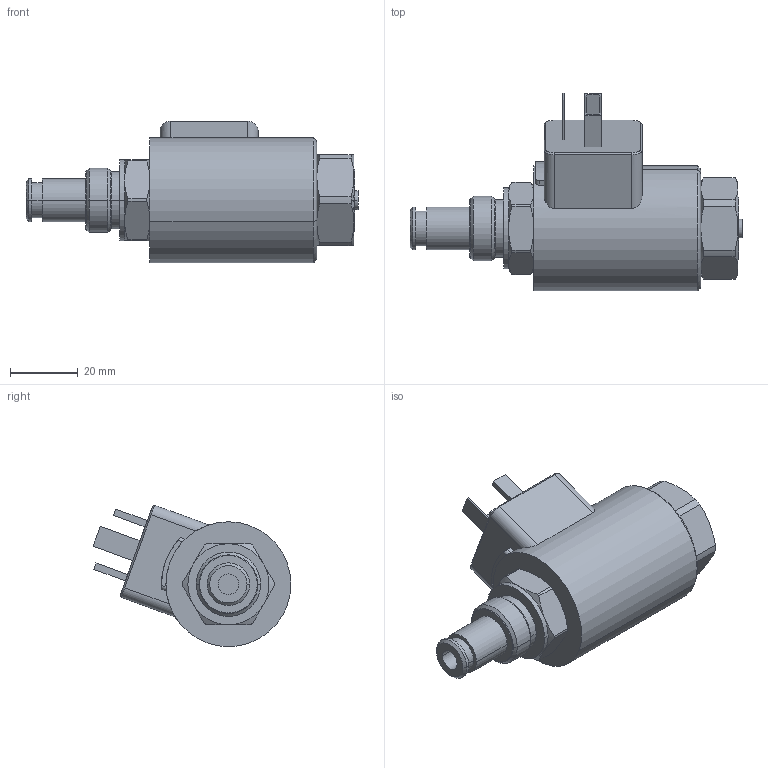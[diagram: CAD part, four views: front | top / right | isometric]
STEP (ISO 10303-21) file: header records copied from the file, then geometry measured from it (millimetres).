
FILE_DESCRIPTION((''),'2;1');
FILE_NAME('SR1P2_A2_H6_326707_ASM','2021-06-07T',('l.soukupova'),(''),'PRO/ENGINEER BY PARAMETRIC TECHNOLOGY CORPORATION, 2015440','PRO/ENGINEER BY PARAMETRIC TECHNOLOGY CORPORATION, 2015440','');
FILE_SCHEMA(('AUTOMOTIVE_DESIGN { 1 0 10303 214 1 1 1 1 }'));
Length unit declared in the file: millimetre
Products named in the file (3): SR1P2_A2_WOUTC; C19B_E1; SR1P2_A2_H6_326707_ASM
Assembly tree (2 placements, depth 2):
  SR1P2_A2_H6_326707_ASM
    SR1P2_A2_WOUTC
    C19B_E1
Bounding box: 98.3 x 58.57 x 41.87 mm (x, y, z)
Volume: 79004.4 mm3; surface area: 20695.7 mm2
Topology: 2 solids, 4 shells, 169 faces, 413 edges, 279 vertices
Faces by surface type: plane 72, cylinder 55, cone 40, torus 2
Entity records: 8516 total; most frequent: CARTESIAN_POINT 1528, DIRECTION 881, ORIENTED_EDGE 786, PRESENTATION_STYLE_ASSIGNMENT 562, STYLED_ITEM 460, CURVE_STYLE 418, EDGE_CURVE 397, AXIS2_PLACEMENT_3D 340
